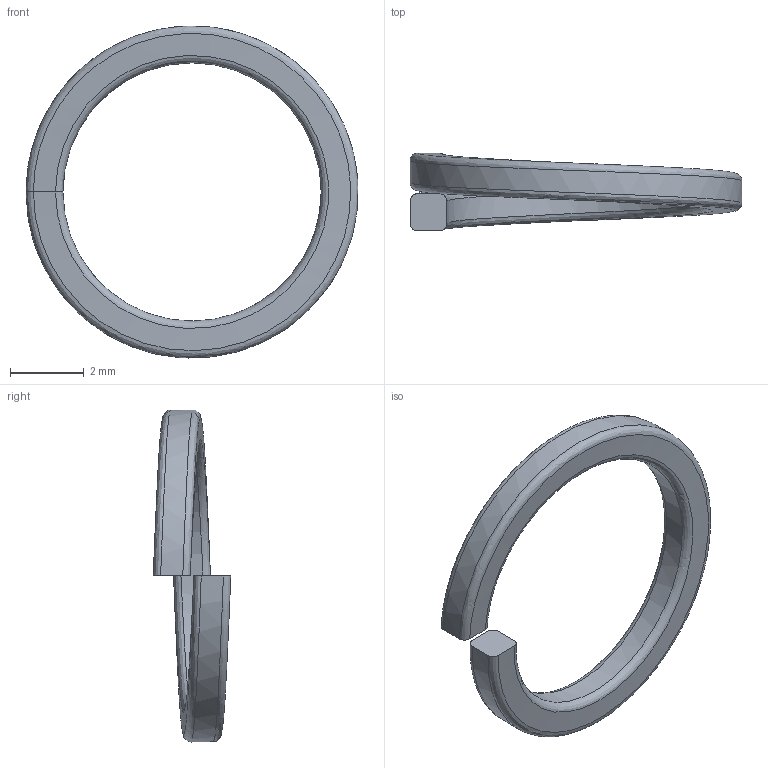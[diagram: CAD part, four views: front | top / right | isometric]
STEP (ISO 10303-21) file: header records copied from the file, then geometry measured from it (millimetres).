
FILE_DESCRIPTION (( 'STEP AP203' ), '1' );
FILE_NAME ('161-CE-SW-6.STEP', '2015-07-09T09:10:21', ( '' ), ( '' ), 'SwSTEP 2.0', 'SolidWorks 2013', '' );
FILE_SCHEMA (( 'CONFIG_CONTROL_DESIGN' ));
Length unit declared in the file: millimetre
Products named in the file (1): 161-CE-SW-6
Bounding box: 9 x 2.1 x 9 mm (x, y, z)
Volume: 24.3 mm3; surface area: 93.9 mm2
Topology: 1 solids, 1 shells, 10 faces, 24 edges, 16 vertices
Faces by surface type: bspline 8, plane 2
Entity records: 1849 total; most frequent: CARTESIAN_POINT 1599, ORIENTED_EDGE 48, EDGE_CURVE 24, VERTEX_POINT 16, B_SPLINE_CURVE_WITH_KNOTS 16, DIRECTION 14, FACE_OUTER_BOUND 10, EDGE_LOOP 10
